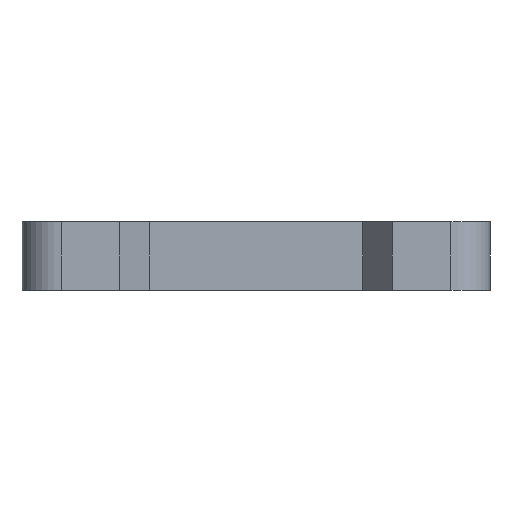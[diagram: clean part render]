
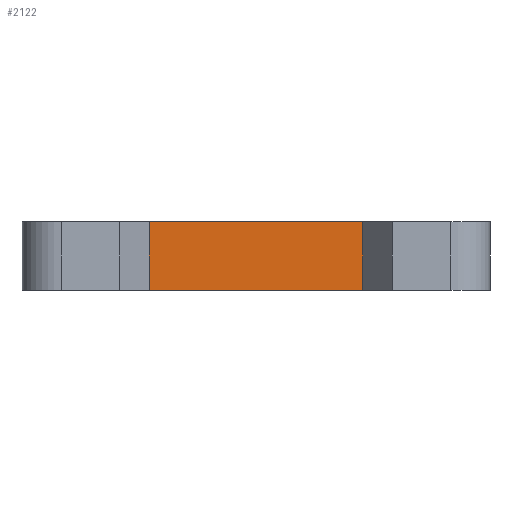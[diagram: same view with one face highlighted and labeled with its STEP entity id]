
A CAD part, left-side view. The second image highlights one B-rep face of the part: STEP entity #2122.
In plain terms, the highlighted planar face has unit normal (-1, 0, 0).
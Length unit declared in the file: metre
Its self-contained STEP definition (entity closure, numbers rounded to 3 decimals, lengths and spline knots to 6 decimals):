
#261=ORIENTED_EDGE('',*,*,#819,.F.);
#262=ORIENTED_EDGE('',*,*,#820,.F.);
#263=ORIENTED_EDGE('',*,*,#821,.T.);
#264=ORIENTED_EDGE('',*,*,#817,.T.);
#817=EDGE_CURVE('',#1076,#1075,#1301,.T.);
#819=EDGE_CURVE('',#1077,#1075,#1303,.T.);
#820=EDGE_CURVE('',#1078,#1077,#1304,.T.);
#821=EDGE_CURVE('',#1078,#1076,#1305,.T.);
#1075=VERTEX_POINT('',#3192);
#1076=VERTEX_POINT('',#3194);
#1077=VERTEX_POINT('',#3198);
#1078=VERTEX_POINT('',#3200);
#1301=LINE('',#3193,#1579);
#1303=LINE('',#3197,#1581);
#1304=LINE('',#3199,#1582);
#1305=LINE('',#3201,#1583);
#1579=VECTOR('',#2605,1.);
#1581=VECTOR('',#2609,1.);
#1582=VECTOR('',#2610,1.);
#1583=VECTOR('',#2611,1.);
#1755=EDGE_LOOP('',(#261,#262,#263,#264));
#1893=FACE_BOUND('',#1755,.T.);
#2023=PLANE('',#2253);
#2122=ADVANCED_FACE('',(#1893),#2023,.T.);
#2253=AXIS2_PLACEMENT_3D('',#3196,#2607,#2608);
#2605=DIRECTION('',(0.,0.,-1.));
#2607=DIRECTION('',(-1.,0.,0.));
#2608=DIRECTION('',(0.,0.,1.));
#2609=DIRECTION('',(0.,1.,0.));
#2610=DIRECTION('',(0.,0.,-1.));
#2611=DIRECTION('',(0.,1.,0.));
#3192=CARTESIAN_POINT('',(-0.0045,0.01165,-0.00175));
#3193=CARTESIAN_POINT('',(-0.0045,0.01165,0.00175));
#3194=CARTESIAN_POINT('',(-0.0045,0.01165,0.00175));
#3196=CARTESIAN_POINT('',(-0.0045,0.0062,0.00175));
#3197=CARTESIAN_POINT('',(-0.0045,0.0062,-0.00175));
#3198=CARTESIAN_POINT('',(-0.0045,0.00075,-0.00175));
#3199=CARTESIAN_POINT('',(-0.0045,0.00075,0.00175));
#3200=CARTESIAN_POINT('',(-0.0045,0.00075,0.00175));
#3201=CARTESIAN_POINT('',(-0.0045,0.0062,0.00175));
